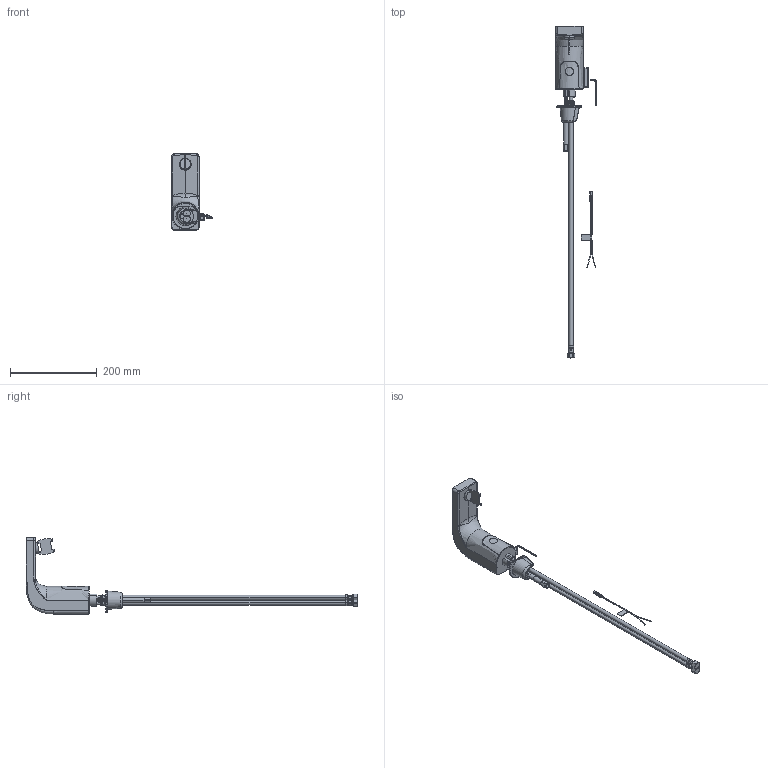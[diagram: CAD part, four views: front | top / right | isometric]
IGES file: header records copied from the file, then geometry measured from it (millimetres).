
Start section:  PTC IGES file: 116-778-ab-4t_REV062822.igs
Global section: file name: 116-778-ab-4t_REV062822.igs; native system: Creo Parametric by PTC Inc.; preprocessor: 2021184; author: rodjo; organization: Unknown; date: 20220628.141328; units: inch
Bounding box: 94.26 x 764.97 x 175.26 mm (x, y, z)
Surface area: 131879.8 mm2 (no closed solid volume)
Topology: 0 solids, 0 shells, 695 faces, 5462 edges, 7431 vertices
Faces by surface type: revolution 410, bspline 284, extrusion 1
